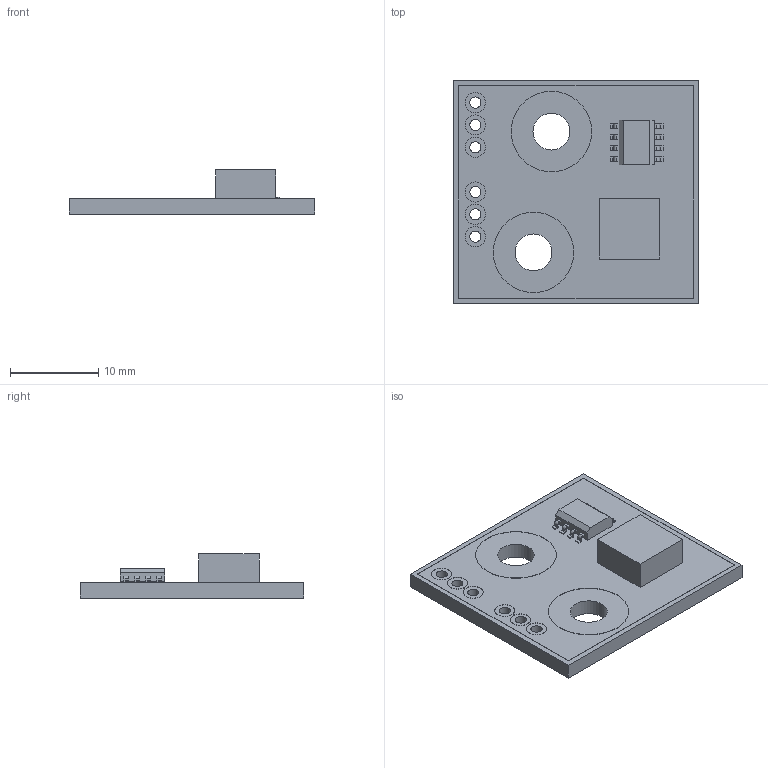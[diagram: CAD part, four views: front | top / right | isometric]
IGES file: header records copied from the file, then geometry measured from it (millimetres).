
Global section: file name: No Iges File Name specified; native system: AutoDesk Inventor R6.0; preprocessor: AutoDesk Inventor Iges Exporter R6.0; author: No Author specified; organization: No Organization specified; date: 20080104.190800; units: inch
Bounding box: 27.94 x 25.4 x 5.03 mm (x, y, z)
Surface area: 1894.4 mm2 (no closed solid volume)
Topology: 0 solids, 0 shells, 153 faces, 772 edges, 756 vertices
Faces by surface type: plane 69, bspline 60, revolution 24
